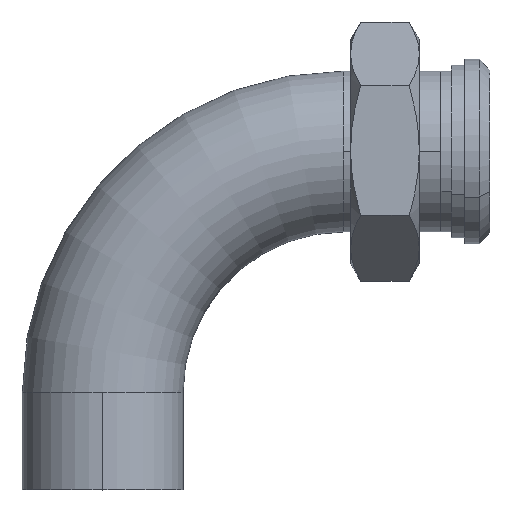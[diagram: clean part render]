
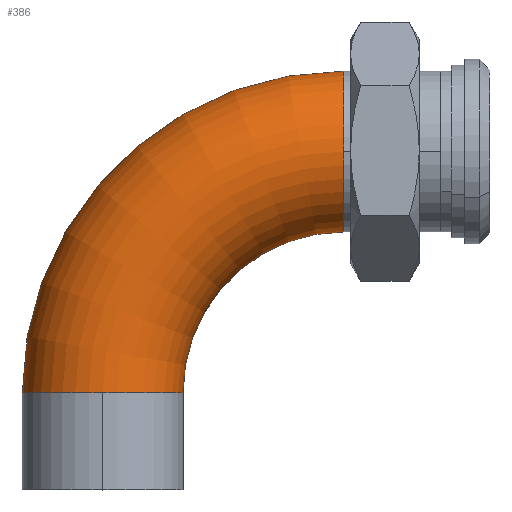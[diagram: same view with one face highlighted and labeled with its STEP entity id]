
A CAD part, top view. The second image highlights one B-rep face of the part: STEP entity #386.
In plain terms, the highlighted toroidal (fillet/blend) face has major radius 114.3 mm and minor radius 38.1 mm.
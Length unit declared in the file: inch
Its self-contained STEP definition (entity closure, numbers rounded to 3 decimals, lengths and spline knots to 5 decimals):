
#121 = DIRECTION ( 'NONE',  ( 0., 0., 1. ) ) ;
#145 = DIRECTION ( 'NONE',  ( 0., 0., -1. ) ) ;
#212 = CARTESIAN_POINT ( 'NONE',  ( 1.5, 1.812, 0. ) ) ;
#282 = CARTESIAN_POINT ( 'NONE',  ( 0., 1.812, 0. ) ) ;
#386 = ADVANCED_FACE ( 'NONE', ( #2101 ), #1339, .T. ) ;
#454 = ORIENTED_EDGE ( 'NONE', *, *, #2135, .T. ) ;
#480 = EDGE_LOOP ( 'NONE', ( #2753, #1315, #1059, #454, #599, #3617 ) ) ;
#599 = ORIENTED_EDGE ( 'NONE', *, *, #3622, .F. ) ;
#604 = DIRECTION ( 'NONE',  ( 0., 0., 1. ) ) ;
#623 = CARTESIAN_POINT ( 'NONE',  ( 0., 1.812, 0. ) ) ;
#790 = VERTEX_POINT ( 'NONE', #2680 ) ;
#935 = DIRECTION ( 'NONE',  ( 0., 0., 1. ) ) ;
#982 = AXIS2_PLACEMENT_3D ( 'NONE', #3121, #1213, #3431 ) ;
#1018 = CARTESIAN_POINT ( 'NONE',  ( -1.5, 1.812, 0. ) ) ;
#1059 = ORIENTED_EDGE ( 'NONE', *, *, #2439, .T. ) ;
#1067 = CIRCLE ( 'NONE', #982, 1.5 ) ;
#1166 = VERTEX_POINT ( 'NONE', #2489 ) ;
#1213 = DIRECTION ( 'NONE',  ( 1., 0., 0. ) ) ;
#1307 = CIRCLE ( 'NONE', #2233, 1.5 ) ;
#1315 = ORIENTED_EDGE ( 'NONE', *, *, #1889, .T. ) ;
#1329 = AXIS2_PLACEMENT_3D ( 'NONE', #282, #2506, #604 ) ;
#1339 = TOROIDAL_SURFACE ( 'NONE', #1502, 4.5, 1.5 ) ;
#1483 = CIRCLE ( 'NONE', #1329, 1.5 ) ;
#1502 = AXIS2_PLACEMENT_3D ( 'NONE', #3966, #145, #2375 ) ;
#1526 = VERTEX_POINT ( 'NONE', #2600 ) ;
#1531 = CIRCLE ( 'NONE', #2906, 6. ) ;
#1568 = CARTESIAN_POINT ( 'NONE',  ( 4.5, 1.812, 0. ) ) ;
#1632 = VERTEX_POINT ( 'NONE', #212 ) ;
#1853 = DIRECTION ( 'NONE',  ( 0., 0., -1. ) ) ;
#1889 = EDGE_CURVE ( 'NONE', #3442, #1526, #2226, .T. ) ;
#1891 = DIRECTION ( 'NONE',  ( -1., 0., 0. ) ) ;
#1941 = EDGE_CURVE ( 'NONE', #1166, #4075, #1067, .T. ) ;
#2039 = DIRECTION ( 'NONE',  ( 1., 0., 0. ) ) ;
#2042 = EDGE_CURVE ( 'NONE', #3442, #1166, #1531, .T. ) ;
#2101 = FACE_OUTER_BOUND ( 'NONE', #480, .T. ) ;
#2135 = EDGE_CURVE ( 'NONE', #1632, #790, #3881, .T. ) ;
#2226 = CIRCLE ( 'NONE', #4057, 1.5 ) ;
#2233 = AXIS2_PLACEMENT_3D ( 'NONE', #3943, #2039, #121 ) ;
#2375 = DIRECTION ( 'NONE',  ( -1., 0., 0. ) ) ;
#2439 = EDGE_CURVE ( 'NONE', #1526, #1632, #1483, .T. ) ;
#2489 = CARTESIAN_POINT ( 'NONE',  ( 4.5, 7.812, 0. ) ) ;
#2506 = DIRECTION ( 'NONE',  ( 0., 1., 0. ) ) ;
#2600 = CARTESIAN_POINT ( 'NONE',  ( 0., 1.812, 1.5 ) ) ;
#2680 = CARTESIAN_POINT ( 'NONE',  ( 4.5, 4.812, 0. ) ) ;
#2753 = ORIENTED_EDGE ( 'NONE', *, *, #2042, .F. ) ;
#2832 = DIRECTION ( 'NONE',  ( 0., 1., 0. ) ) ;
#2906 = AXIS2_PLACEMENT_3D ( 'NONE', #1568, #3800, #1891 ) ;
#3007 = CARTESIAN_POINT ( 'NONE',  ( 4.5, 6.312, 1.5 ) ) ;
#3119 = AXIS2_PLACEMENT_3D ( 'NONE', #3767, #1853, #4090 ) ;
#3121 = CARTESIAN_POINT ( 'NONE',  ( 4.5, 6.312, 0. ) ) ;
#3431 = DIRECTION ( 'NONE',  ( 0., 0., 1. ) ) ;
#3442 = VERTEX_POINT ( 'NONE', #1018 ) ;
#3617 = ORIENTED_EDGE ( 'NONE', *, *, #1941, .F. ) ;
#3622 = EDGE_CURVE ( 'NONE', #4075, #790, #1307, .T. ) ;
#3767 = CARTESIAN_POINT ( 'NONE',  ( 4.5, 1.812, 0. ) ) ;
#3800 = DIRECTION ( 'NONE',  ( 0., 0., -1. ) ) ;
#3881 = CIRCLE ( 'NONE', #3119, 3. ) ;
#3943 = CARTESIAN_POINT ( 'NONE',  ( 4.5, 6.312, 0. ) ) ;
#3966 = CARTESIAN_POINT ( 'NONE',  ( 4.5, 1.812, 0. ) ) ;
#4057 = AXIS2_PLACEMENT_3D ( 'NONE', #623, #2832, #935 ) ;
#4075 = VERTEX_POINT ( 'NONE', #3007 ) ;
#4090 = DIRECTION ( 'NONE',  ( -1., 0., 0. ) ) ;
